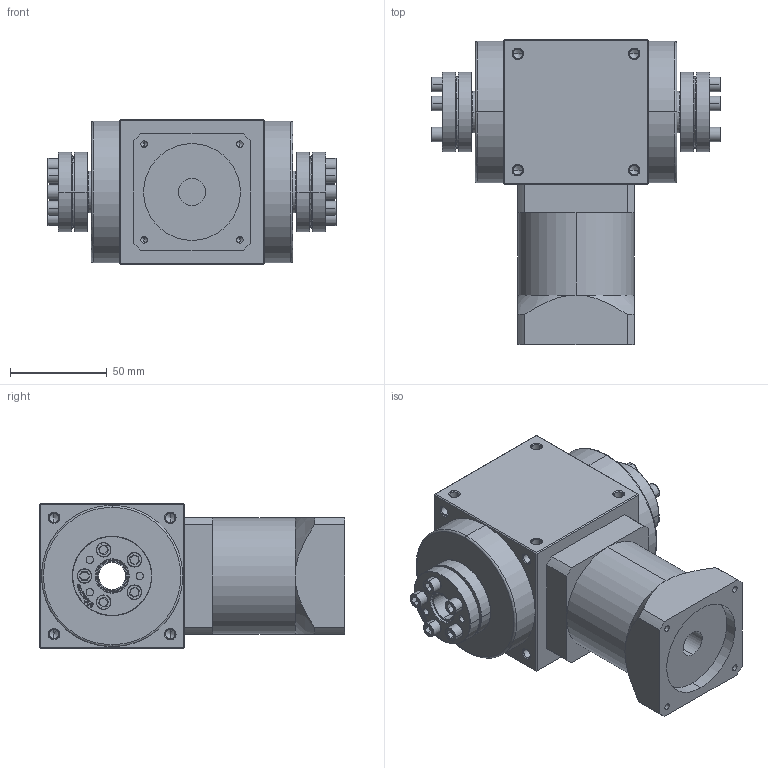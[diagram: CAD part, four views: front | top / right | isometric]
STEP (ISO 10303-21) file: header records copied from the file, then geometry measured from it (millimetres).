
FILE_DESCRIPTION (( 'STEP AP214' ), '1' );
FILE_NAME ('AT075-FC-L1--400W.STEP', '2020-04-21T01:25:58', ( 'User' ), ( 'Far123' ), 'SwSTEP 2.0', 'SolidWorks 2015', '' );
FILE_SCHEMA (( 'AUTOMOTIVE_DESIGN' ));
Length unit declared in the file: millimetre
Products named in the file (3): AT075-FC-L1--400W; AT075-FC-L1-400W; 83_16x41
Assembly tree (3 placements, depth 2):
  AT075-FC-L1--400W
    AT075-FC-L1-400W
    83_16x41  x2
Bounding box: 149 x 157.5 x 75 mm (x, y, z)
Volume: 801491.6 mm3; surface area: 94641.3 mm2
Topology: 19 solids, 19 shells, 961 faces, 2300 edges, 1376 vertices
Faces by surface type: cylinder 410, plane 247, cone 220, bspline 80, torus 4
Entity records: 20183 total; most frequent: CARTESIAN_POINT 5292, DIRECTION 2916, ORIENTED_EDGE 2868, EDGE_CURVE 1434, AXIS2_PLACEMENT_3D 1118, VERTEX_POINT 868, EDGE_LOOP 702, LINE 680
